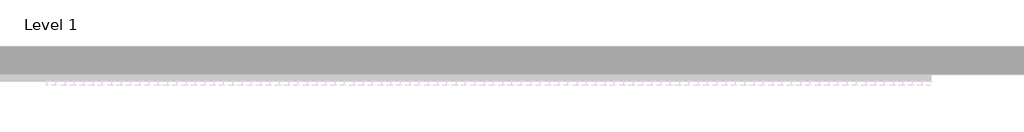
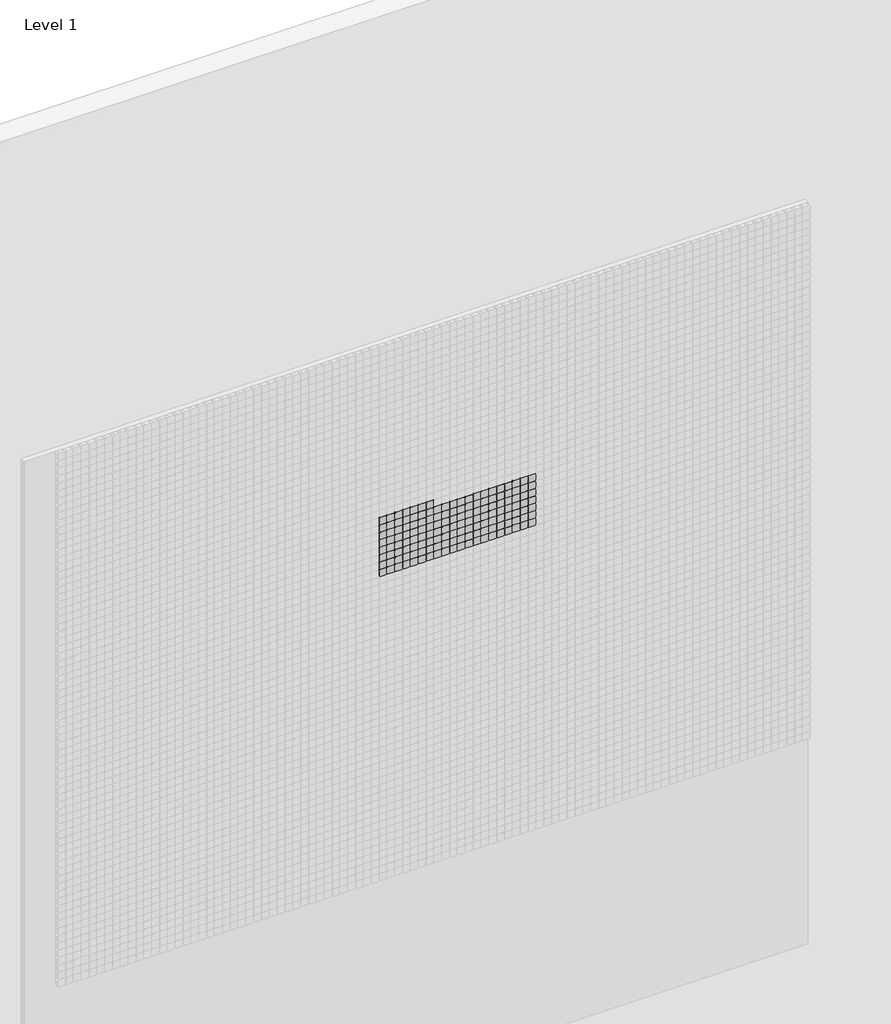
# One storey, part 38 of 71: 147 proxies.
"""IFC4 building model written with IfcOpenShell, lengths in millimetres."""

from ifc_helpers import new_model, si_unit, origin, place, context, project, spatial, transform, mapped, element, save
from components import generic_models_afde289c

model = new_model("IFC4")

# Units and contexts
model_context = context("Model", 3, world=origin())
ifc_project = project(units=[si_unit("LENGTHUNIT", "METRE", prefix="MILLI")], contexts=[model_context])

# Site, building, storey
site = spatial("IfcSite", under=ifc_project)
building = spatial("IfcBuilding", under=site)
storey = spatial("IfcBuildingStorey", under=building, Name="Level 1", Elevation=0.0)

# Proxies
placement = place(None, origin())
generic_models_shape = generic_models_afde289c(model_context)
element("IfcBuildingElementProxy", 1, Name="Pixel_M : Pixel_M", ObjectType="Pixel_M : Pixel_M", at=placement, inside=storey, context=model_context, shape_type="MappedRepresentation", body=[
    mapped(generic_models_shape, transform((7312.4280941, -75.0, 4816.3566215), x_axis=(1.0, 0.0, 0.0), y_axis=(0.0, 0.0, 1.0), z_axis=(0.0, -1.0, 0.0))),
])
element("IfcBuildingElementProxy", 2, Name="Pixel_M : Pixel_M", ObjectType="Pixel_M : Pixel_M", at=placement, inside=storey, context=model_context, shape_type="MappedRepresentation", body=[
    mapped(generic_models_shape, transform((7262.4280941, -75.0, 4816.3566215), x_axis=(1.0, 0.0, 0.0), y_axis=(0.0, 0.0, 1.0), z_axis=(0.0, -1.0, 0.0))),
])
element("IfcBuildingElementProxy", 3, Name="Pixel_M : Pixel_M", ObjectType="Pixel_M : Pixel_M", at=placement, inside=storey, context=model_context, shape_type="MappedRepresentation", body=[
    mapped(generic_models_shape, transform((7212.4280941, -75.0, 4816.3566215), x_axis=(1.0, 0.0, 0.0), y_axis=(0.0, 0.0, 1.0), z_axis=(0.0, -1.0, 0.0))),
])
element("IfcBuildingElementProxy", 4, Name="Pixel_M : Pixel_M", ObjectType="Pixel_M : Pixel_M", at=placement, inside=storey, context=model_context, shape_type="MappedRepresentation", body=[
    mapped(generic_models_shape, transform((7162.4280941, -75.0, 4816.3566215), x_axis=(1.0, 0.0, 0.0), y_axis=(0.0, 0.0, 1.0), z_axis=(0.0, -1.0, 0.0))),
])
element("IfcBuildingElementProxy", 5, Name="Pixel_M : Pixel_M", ObjectType="Pixel_M : Pixel_M", at=placement, inside=storey, context=model_context, shape_type="MappedRepresentation", body=[
    mapped(generic_models_shape, transform((7112.4280941, -75.0, 4816.3566215), x_axis=(1.0, 0.0, 0.0), y_axis=(0.0, 0.0, 1.0), z_axis=(0.0, -1.0, 0.0))),
])
element("IfcBuildingElementProxy", 6, Name="Pixel_M : Pixel_M", ObjectType="Pixel_M : Pixel_M", at=placement, inside=storey, context=model_context, shape_type="MappedRepresentation", body=[
    mapped(generic_models_shape, transform((7062.4280941, -75.0, 4816.3566215), x_axis=(1.0, 0.0, 0.0), y_axis=(0.0, 0.0, 1.0), z_axis=(0.0, -1.0, 0.0))),
])
element("IfcBuildingElementProxy", 7, Name="Pixel_M : Pixel_M", ObjectType="Pixel_M : Pixel_M", at=placement, inside=storey, context=model_context, shape_type="MappedRepresentation", body=[
    mapped(generic_models_shape, transform((7012.4280941, -75.0, 4816.3566215), x_axis=(1.0, 0.0, 0.0), y_axis=(0.0, 0.0, 1.0), z_axis=(0.0, -1.0, 0.0))),
])
element("IfcBuildingElementProxy", 8, Name="Pixel_M : Pixel_M", ObjectType="Pixel_M : Pixel_M", at=placement, inside=storey, context=model_context, shape_type="MappedRepresentation", body=[
    mapped(generic_models_shape, transform((7962.4280941, -75.0, 4766.3566215), x_axis=(1.0, 0.0, 0.0), y_axis=(0.0, 0.0, 1.0), z_axis=(0.0, -1.0, 0.0))),
])
element("IfcBuildingElementProxy", 9, Name="Pixel_M : Pixel_M", ObjectType="Pixel_M : Pixel_M", at=placement, inside=storey, context=model_context, shape_type="MappedRepresentation", body=[
    mapped(generic_models_shape, transform((7912.4280941, -75.0, 4766.3566215), x_axis=(1.0, 0.0, 0.0), y_axis=(0.0, 0.0, 1.0), z_axis=(0.0, -1.0, 0.0))),
])
element("IfcBuildingElementProxy", 10, Name="Pixel_M : Pixel_M", ObjectType="Pixel_M : Pixel_M", at=placement, inside=storey, context=model_context, shape_type="MappedRepresentation", body=[
    mapped(generic_models_shape, transform((7862.4280941, -75.0, 4766.3566215), x_axis=(1.0, 0.0, 0.0), y_axis=(0.0, 0.0, 1.0), z_axis=(0.0, -1.0, 0.0))),
])
element("IfcBuildingElementProxy", 11, Name="Pixel_M : Pixel_M", ObjectType="Pixel_M : Pixel_M", at=placement, inside=storey, context=model_context, shape_type="MappedRepresentation", body=[
    mapped(generic_models_shape, transform((7812.4280941, -75.0, 4766.3566215), x_axis=(1.0, 0.0, 0.0), y_axis=(0.0, 0.0, 1.0), z_axis=(0.0, -1.0, 0.0))),
])
element("IfcBuildingElementProxy", 12, Name="Pixel_M : Pixel_M", ObjectType="Pixel_M : Pixel_M", at=placement, inside=storey, context=model_context, shape_type="MappedRepresentation", body=[
    mapped(generic_models_shape, transform((7762.4280941, -75.0, 4766.3566215), x_axis=(1.0, 0.0, 0.0), y_axis=(0.0, 0.0, 1.0), z_axis=(0.0, -1.0, 0.0))),
])
element("IfcBuildingElementProxy", 13, Name="Pixel_M : Pixel_M", ObjectType="Pixel_M : Pixel_M", at=placement, inside=storey, context=model_context, shape_type="MappedRepresentation", body=[
    mapped(generic_models_shape, transform((7712.4280941, -75.0, 4766.3566215), x_axis=(1.0, 0.0, 0.0), y_axis=(0.0, 0.0, 1.0), z_axis=(0.0, -1.0, 0.0))),
])
element("IfcBuildingElementProxy", 14, Name="Pixel_M : Pixel_M", ObjectType="Pixel_M : Pixel_M", at=placement, inside=storey, context=model_context, shape_type="MappedRepresentation", body=[
    mapped(generic_models_shape, transform((7662.4280941, -75.0, 4766.3566215), x_axis=(1.0, 0.0, 0.0), y_axis=(0.0, 0.0, 1.0), z_axis=(0.0, -1.0, 0.0))),
])
element("IfcBuildingElementProxy", 15, Name="Pixel_M : Pixel_M", ObjectType="Pixel_M : Pixel_M", at=placement, inside=storey, context=model_context, shape_type="MappedRepresentation", body=[
    mapped(generic_models_shape, transform((7612.4280941, -75.0, 4766.3566215), x_axis=(1.0, 0.0, 0.0), y_axis=(0.0, 0.0, 1.0), z_axis=(0.0, -1.0, 0.0))),
])
element("IfcBuildingElementProxy", 16, Name="Pixel_M : Pixel_M", ObjectType="Pixel_M : Pixel_M", at=placement, inside=storey, context=model_context, shape_type="MappedRepresentation", body=[
    mapped(generic_models_shape, transform((7562.4280941, -75.0, 4766.3566215), x_axis=(1.0, 0.0, 0.0), y_axis=(0.0, 0.0, 1.0), z_axis=(0.0, -1.0, 0.0))),
])
element("IfcBuildingElementProxy", 17, Name="Pixel_M : Pixel_M", ObjectType="Pixel_M : Pixel_M", at=placement, inside=storey, context=model_context, shape_type="MappedRepresentation", body=[
    mapped(generic_models_shape, transform((7512.4280941, -75.0, 4766.3566215), x_axis=(1.0, 0.0, 0.0), y_axis=(0.0, 0.0, 1.0), z_axis=(0.0, -1.0, 0.0))),
])
element("IfcBuildingElementProxy", 18, Name="Pixel_M : Pixel_M", ObjectType="Pixel_M : Pixel_M", at=placement, inside=storey, context=model_context, shape_type="MappedRepresentation", body=[
    mapped(generic_models_shape, transform((7462.4280941, -75.0, 4766.3566215), x_axis=(1.0, 0.0, 0.0), y_axis=(0.0, 0.0, 1.0), z_axis=(0.0, -1.0, 0.0))),
])
element("IfcBuildingElementProxy", 19, Name="Pixel_M : Pixel_M", ObjectType="Pixel_M : Pixel_M", at=placement, inside=storey, context=model_context, shape_type="MappedRepresentation", body=[
    mapped(generic_models_shape, transform((7412.4280941, -75.0, 4766.3566215), x_axis=(1.0, 0.0, 0.0), y_axis=(0.0, 0.0, 1.0), z_axis=(0.0, -1.0, 0.0))),
])
element("IfcBuildingElementProxy", 20, Name="Pixel_M : Pixel_M", ObjectType="Pixel_M : Pixel_M", at=placement, inside=storey, context=model_context, shape_type="MappedRepresentation", body=[
    mapped(generic_models_shape, transform((7362.4280941, -75.0, 4766.3566215), x_axis=(1.0, 0.0, 0.0), y_axis=(0.0, 0.0, 1.0), z_axis=(0.0, -1.0, 0.0))),
])
element("IfcBuildingElementProxy", 21, Name="Pixel_M : Pixel_M", ObjectType="Pixel_M : Pixel_M", at=placement, inside=storey, context=model_context, shape_type="MappedRepresentation", body=[
    mapped(generic_models_shape, transform((7312.4280941, -75.0, 4766.3566215), x_axis=(1.0, 0.0, 0.0), y_axis=(0.0, 0.0, 1.0), z_axis=(0.0, -1.0, 0.0))),
])
element("IfcBuildingElementProxy", 22, Name="Pixel_M : Pixel_M", ObjectType="Pixel_M : Pixel_M", at=placement, inside=storey, context=model_context, shape_type="MappedRepresentation", body=[
    mapped(generic_models_shape, transform((7262.4280941, -75.0, 4766.3566215), x_axis=(1.0, 0.0, 0.0), y_axis=(0.0, 0.0, 1.0), z_axis=(0.0, -1.0, 0.0))),
])
element("IfcBuildingElementProxy", 23, Name="Pixel_M : Pixel_M", ObjectType="Pixel_M : Pixel_M", at=placement, inside=storey, context=model_context, shape_type="MappedRepresentation", body=[
    mapped(generic_models_shape, transform((7212.4280941, -75.0, 4766.3566215), x_axis=(1.0, 0.0, 0.0), y_axis=(0.0, 0.0, 1.0), z_axis=(0.0, -1.0, 0.0))),
])
element("IfcBuildingElementProxy", 24, Name="Pixel_M : Pixel_M", ObjectType="Pixel_M : Pixel_M", at=placement, inside=storey, context=model_context, shape_type="MappedRepresentation", body=[
    mapped(generic_models_shape, transform((7162.4280941, -75.0, 4766.3566215), x_axis=(1.0, 0.0, 0.0), y_axis=(0.0, 0.0, 1.0), z_axis=(0.0, -1.0, 0.0))),
])
element("IfcBuildingElementProxy", 25, Name="Pixel_M : Pixel_M", ObjectType="Pixel_M : Pixel_M", at=placement, inside=storey, context=model_context, shape_type="MappedRepresentation", body=[
    mapped(generic_models_shape, transform((7112.4280941, -75.0, 4766.3566215), x_axis=(1.0, 0.0, 0.0), y_axis=(0.0, 0.0, 1.0), z_axis=(0.0, -1.0, 0.0))),
])
element("IfcBuildingElementProxy", 26, Name="Pixel_M : Pixel_M", ObjectType="Pixel_M : Pixel_M", at=placement, inside=storey, context=model_context, shape_type="MappedRepresentation", body=[
    mapped(generic_models_shape, transform((7062.4280941, -75.0, 4766.3566215), x_axis=(1.0, 0.0, 0.0), y_axis=(0.0, 0.0, 1.0), z_axis=(0.0, -1.0, 0.0))),
])
element("IfcBuildingElementProxy", 27, Name="Pixel_M : Pixel_M", ObjectType="Pixel_M : Pixel_M", at=placement, inside=storey, context=model_context, shape_type="MappedRepresentation", body=[
    mapped(generic_models_shape, transform((7012.4280941, -75.0, 4766.3566215), x_axis=(1.0, 0.0, 0.0), y_axis=(0.0, 0.0, 1.0), z_axis=(0.0, -1.0, 0.0))),
])
element("IfcBuildingElementProxy", 28, Name="Pixel_M : Pixel_M", ObjectType="Pixel_M : Pixel_M", at=placement, inside=storey, context=model_context, shape_type="MappedRepresentation", body=[
    mapped(generic_models_shape, transform((7962.4280941, -75.0, 4716.3566215), x_axis=(1.0, 0.0, 0.0), y_axis=(0.0, 0.0, 1.0), z_axis=(0.0, -1.0, 0.0))),
])
element("IfcBuildingElementProxy", 29, Name="Pixel_M : Pixel_M", ObjectType="Pixel_M : Pixel_M", at=placement, inside=storey, context=model_context, shape_type="MappedRepresentation", body=[
    mapped(generic_models_shape, transform((7912.4280941, -75.0, 4716.3566215), x_axis=(1.0, 0.0, 0.0), y_axis=(0.0, 0.0, 1.0), z_axis=(0.0, -1.0, 0.0))),
])
element("IfcBuildingElementProxy", 30, Name="Pixel_M : Pixel_M", ObjectType="Pixel_M : Pixel_M", at=placement, inside=storey, context=model_context, shape_type="MappedRepresentation", body=[
    mapped(generic_models_shape, transform((7862.4280941, -75.0, 4716.3566215), x_axis=(1.0, 0.0, 0.0), y_axis=(0.0, 0.0, 1.0), z_axis=(0.0, -1.0, 0.0))),
])
element("IfcBuildingElementProxy", 31, Name="Pixel_M : Pixel_M", ObjectType="Pixel_M : Pixel_M", at=placement, inside=storey, context=model_context, shape_type="MappedRepresentation", body=[
    mapped(generic_models_shape, transform((7812.4280941, -75.0, 4716.3566215), x_axis=(1.0, 0.0, 0.0), y_axis=(0.0, 0.0, 1.0), z_axis=(0.0, -1.0, 0.0))),
])
element("IfcBuildingElementProxy", 32, Name="Pixel_M : Pixel_M", ObjectType="Pixel_M : Pixel_M", at=placement, inside=storey, context=model_context, shape_type="MappedRepresentation", body=[
    mapped(generic_models_shape, transform((7762.4280941, -75.0, 4716.3566215), x_axis=(1.0, 0.0, 0.0), y_axis=(0.0, 0.0, 1.0), z_axis=(0.0, -1.0, 0.0))),
])
element("IfcBuildingElementProxy", 33, Name="Pixel_M : Pixel_M", ObjectType="Pixel_M : Pixel_M", at=placement, inside=storey, context=model_context, shape_type="MappedRepresentation", body=[
    mapped(generic_models_shape, transform((7712.4280941, -75.0, 4716.3566215), x_axis=(1.0, 0.0, 0.0), y_axis=(0.0, 0.0, 1.0), z_axis=(0.0, -1.0, 0.0))),
])
element("IfcBuildingElementProxy", 34, Name="Pixel_M : Pixel_M", ObjectType="Pixel_M : Pixel_M", at=placement, inside=storey, context=model_context, shape_type="MappedRepresentation", body=[
    mapped(generic_models_shape, transform((7662.4280941, -75.0, 4716.3566215), x_axis=(1.0, 0.0, 0.0), y_axis=(0.0, 0.0, 1.0), z_axis=(0.0, -1.0, 0.0))),
])
element("IfcBuildingElementProxy", 35, Name="Pixel_M : Pixel_M", ObjectType="Pixel_M : Pixel_M", at=placement, inside=storey, context=model_context, shape_type="MappedRepresentation", body=[
    mapped(generic_models_shape, transform((7612.4280941, -75.0, 4716.3566215), x_axis=(1.0, 0.0, 0.0), y_axis=(0.0, 0.0, 1.0), z_axis=(0.0, -1.0, 0.0))),
])
element("IfcBuildingElementProxy", 36, Name="Pixel_M : Pixel_M", ObjectType="Pixel_M : Pixel_M", at=placement, inside=storey, context=model_context, shape_type="MappedRepresentation", body=[
    mapped(generic_models_shape, transform((7562.4280941, -75.0, 4716.3566215), x_axis=(1.0, 0.0, 0.0), y_axis=(0.0, 0.0, 1.0), z_axis=(0.0, -1.0, 0.0))),
])
element("IfcBuildingElementProxy", 37, Name="Pixel_M : Pixel_M", ObjectType="Pixel_M : Pixel_M", at=placement, inside=storey, context=model_context, shape_type="MappedRepresentation", body=[
    mapped(generic_models_shape, transform((7512.4280941, -75.0, 4716.3566215), x_axis=(1.0, 0.0, 0.0), y_axis=(0.0, 0.0, 1.0), z_axis=(0.0, -1.0, 0.0))),
])
element("IfcBuildingElementProxy", 38, Name="Pixel_M : Pixel_M", ObjectType="Pixel_M : Pixel_M", at=placement, inside=storey, context=model_context, shape_type="MappedRepresentation", body=[
    mapped(generic_models_shape, transform((7462.4280941, -75.0, 4716.3566215), x_axis=(1.0, 0.0, 0.0), y_axis=(0.0, 0.0, 1.0), z_axis=(0.0, -1.0, 0.0))),
])
element("IfcBuildingElementProxy", 39, Name="Pixel_M : Pixel_M", ObjectType="Pixel_M : Pixel_M", at=placement, inside=storey, context=model_context, shape_type="MappedRepresentation", body=[
    mapped(generic_models_shape, transform((7412.4280941, -75.0, 4716.3566215), x_axis=(1.0, 0.0, 0.0), y_axis=(0.0, 0.0, 1.0), z_axis=(0.0, -1.0, 0.0))),
])
element("IfcBuildingElementProxy", 40, Name="Pixel_M : Pixel_M", ObjectType="Pixel_M : Pixel_M", at=placement, inside=storey, context=model_context, shape_type="MappedRepresentation", body=[
    mapped(generic_models_shape, transform((7362.4280941, -75.0, 4716.3566215), x_axis=(1.0, 0.0, 0.0), y_axis=(0.0, 0.0, 1.0), z_axis=(0.0, -1.0, 0.0))),
])
element("IfcBuildingElementProxy", 41, Name="Pixel_M : Pixel_M", ObjectType="Pixel_M : Pixel_M", at=placement, inside=storey, context=model_context, shape_type="MappedRepresentation", body=[
    mapped(generic_models_shape, transform((7312.4280941, -75.0, 4716.3566215), x_axis=(1.0, 0.0, 0.0), y_axis=(0.0, 0.0, 1.0), z_axis=(0.0, -1.0, 0.0))),
])
element("IfcBuildingElementProxy", 42, Name="Pixel_M : Pixel_M", ObjectType="Pixel_M : Pixel_M", at=placement, inside=storey, context=model_context, shape_type="MappedRepresentation", body=[
    mapped(generic_models_shape, transform((7262.4280941, -75.0, 4716.3566215), x_axis=(1.0, 0.0, 0.0), y_axis=(0.0, 0.0, 1.0), z_axis=(0.0, -1.0, 0.0))),
])
element("IfcBuildingElementProxy", 43, Name="Pixel_M : Pixel_M", ObjectType="Pixel_M : Pixel_M", at=placement, inside=storey, context=model_context, shape_type="MappedRepresentation", body=[
    mapped(generic_models_shape, transform((7212.4280941, -75.0, 4716.3566215), x_axis=(1.0, 0.0, 0.0), y_axis=(0.0, 0.0, 1.0), z_axis=(0.0, -1.0, 0.0))),
])
element("IfcBuildingElementProxy", 44, Name="Pixel_M : Pixel_M", ObjectType="Pixel_M : Pixel_M", at=placement, inside=storey, context=model_context, shape_type="MappedRepresentation", body=[
    mapped(generic_models_shape, transform((7162.4280941, -75.0, 4716.3566215), x_axis=(1.0, 0.0, 0.0), y_axis=(0.0, 0.0, 1.0), z_axis=(0.0, -1.0, 0.0))),
])
element("IfcBuildingElementProxy", 45, Name="Pixel_M : Pixel_M", ObjectType="Pixel_M : Pixel_M", at=placement, inside=storey, context=model_context, shape_type="MappedRepresentation", body=[
    mapped(generic_models_shape, transform((7112.4280941, -75.0, 4716.3566215), x_axis=(1.0, 0.0, 0.0), y_axis=(0.0, 0.0, 1.0), z_axis=(0.0, -1.0, 0.0))),
])
element("IfcBuildingElementProxy", 46, Name="Pixel_M : Pixel_M", ObjectType="Pixel_M : Pixel_M", at=placement, inside=storey, context=model_context, shape_type="MappedRepresentation", body=[
    mapped(generic_models_shape, transform((7062.4280941, -75.0, 4716.3566215), x_axis=(1.0, 0.0, 0.0), y_axis=(0.0, 0.0, 1.0), z_axis=(0.0, -1.0, 0.0))),
])
element("IfcBuildingElementProxy", 47, Name="Pixel_M : Pixel_M", ObjectType="Pixel_M : Pixel_M", at=placement, inside=storey, context=model_context, shape_type="MappedRepresentation", body=[
    mapped(generic_models_shape, transform((7012.4280941, -75.0, 4716.3566215), x_axis=(1.0, 0.0, 0.0), y_axis=(0.0, 0.0, 1.0), z_axis=(0.0, -1.0, 0.0))),
])
element("IfcBuildingElementProxy", 48, Name="Pixel_M : Pixel_M", ObjectType="Pixel_M : Pixel_M", at=placement, inside=storey, context=model_context, shape_type="MappedRepresentation", body=[
    mapped(generic_models_shape, transform((7962.4280941, -75.0, 4666.3566215), x_axis=(1.0, 0.0, 0.0), y_axis=(0.0, 0.0, 1.0), z_axis=(0.0, -1.0, 0.0))),
])
element("IfcBuildingElementProxy", 49, Name="Pixel_M : Pixel_M", ObjectType="Pixel_M : Pixel_M", at=placement, inside=storey, context=model_context, shape_type="MappedRepresentation", body=[
    mapped(generic_models_shape, transform((7912.4280941, -75.0, 4666.3566215), x_axis=(1.0, 0.0, 0.0), y_axis=(0.0, 0.0, 1.0), z_axis=(0.0, -1.0, 0.0))),
])
element("IfcBuildingElementProxy", 50, Name="Pixel_M : Pixel_M", ObjectType="Pixel_M : Pixel_M", at=placement, inside=storey, context=model_context, shape_type="MappedRepresentation", body=[
    mapped(generic_models_shape, transform((7862.4280941, -75.0, 4666.3566215), x_axis=(1.0, 0.0, 0.0), y_axis=(0.0, 0.0, 1.0), z_axis=(0.0, -1.0, 0.0))),
])
element("IfcBuildingElementProxy", 51, Name="Pixel_M : Pixel_M", ObjectType="Pixel_M : Pixel_M", at=placement, inside=storey, context=model_context, shape_type="MappedRepresentation", body=[
    mapped(generic_models_shape, transform((7812.4280941, -75.0, 4666.3566215), x_axis=(1.0, 0.0, 0.0), y_axis=(0.0, 0.0, 1.0), z_axis=(0.0, -1.0, 0.0))),
])
element("IfcBuildingElementProxy", 52, Name="Pixel_M : Pixel_M", ObjectType="Pixel_M : Pixel_M", at=placement, inside=storey, context=model_context, shape_type="MappedRepresentation", body=[
    mapped(generic_models_shape, transform((7762.4280941, -75.0, 4666.3566215), x_axis=(1.0, 0.0, 0.0), y_axis=(0.0, 0.0, 1.0), z_axis=(0.0, -1.0, 0.0))),
])
element("IfcBuildingElementProxy", 53, Name="Pixel_M : Pixel_M", ObjectType="Pixel_M : Pixel_M", at=placement, inside=storey, context=model_context, shape_type="MappedRepresentation", body=[
    mapped(generic_models_shape, transform((7712.4280941, -75.0, 4666.3566215), x_axis=(1.0, 0.0, 0.0), y_axis=(0.0, 0.0, 1.0), z_axis=(0.0, -1.0, 0.0))),
])
element("IfcBuildingElementProxy", 54, Name="Pixel_M : Pixel_M", ObjectType="Pixel_M : Pixel_M", at=placement, inside=storey, context=model_context, shape_type="MappedRepresentation", body=[
    mapped(generic_models_shape, transform((7662.4280941, -75.0, 4666.3566215), x_axis=(1.0, 0.0, 0.0), y_axis=(0.0, 0.0, 1.0), z_axis=(0.0, -1.0, 0.0))),
])
element("IfcBuildingElementProxy", 55, Name="Pixel_M : Pixel_M", ObjectType="Pixel_M : Pixel_M", at=placement, inside=storey, context=model_context, shape_type="MappedRepresentation", body=[
    mapped(generic_models_shape, transform((7612.4280941, -75.0, 4666.3566215), x_axis=(1.0, 0.0, 0.0), y_axis=(0.0, 0.0, 1.0), z_axis=(0.0, -1.0, 0.0))),
])
element("IfcBuildingElementProxy", 56, Name="Pixel_M : Pixel_M", ObjectType="Pixel_M : Pixel_M", at=placement, inside=storey, context=model_context, shape_type="MappedRepresentation", body=[
    mapped(generic_models_shape, transform((7562.4280941, -75.0, 4666.3566215), x_axis=(1.0, 0.0, 0.0), y_axis=(0.0, 0.0, 1.0), z_axis=(0.0, -1.0, 0.0))),
])
element("IfcBuildingElementProxy", 57, Name="Pixel_M : Pixel_M", ObjectType="Pixel_M : Pixel_M", at=placement, inside=storey, context=model_context, shape_type="MappedRepresentation", body=[
    mapped(generic_models_shape, transform((7512.4280941, -75.0, 4666.3566215), x_axis=(1.0, 0.0, 0.0), y_axis=(0.0, 0.0, 1.0), z_axis=(0.0, -1.0, 0.0))),
])
element("IfcBuildingElementProxy", 58, Name="Pixel_M : Pixel_M", ObjectType="Pixel_M : Pixel_M", at=placement, inside=storey, context=model_context, shape_type="MappedRepresentation", body=[
    mapped(generic_models_shape, transform((7462.4280941, -75.0, 4666.3566215), x_axis=(1.0, 0.0, 0.0), y_axis=(0.0, 0.0, 1.0), z_axis=(0.0, -1.0, 0.0))),
])
element("IfcBuildingElementProxy", 59, Name="Pixel_M : Pixel_M", ObjectType="Pixel_M : Pixel_M", at=placement, inside=storey, context=model_context, shape_type="MappedRepresentation", body=[
    mapped(generic_models_shape, transform((7412.4280941, -75.0, 4666.3566215), x_axis=(1.0, 0.0, 0.0), y_axis=(0.0, 0.0, 1.0), z_axis=(0.0, -1.0, 0.0))),
])
element("IfcBuildingElementProxy", 60, Name="Pixel_M : Pixel_M", ObjectType="Pixel_M : Pixel_M", at=placement, inside=storey, context=model_context, shape_type="MappedRepresentation", body=[
    mapped(generic_models_shape, transform((7362.4280941, -75.0, 4666.3566215), x_axis=(1.0, 0.0, 0.0), y_axis=(0.0, 0.0, 1.0), z_axis=(0.0, -1.0, 0.0))),
])
element("IfcBuildingElementProxy", 61, Name="Pixel_M : Pixel_M", ObjectType="Pixel_M : Pixel_M", at=placement, inside=storey, context=model_context, shape_type="MappedRepresentation", body=[
    mapped(generic_models_shape, transform((7312.4280941, -75.0, 4666.3566215), x_axis=(1.0, 0.0, 0.0), y_axis=(0.0, 0.0, 1.0), z_axis=(0.0, -1.0, 0.0))),
])
element("IfcBuildingElementProxy", 62, Name="Pixel_M : Pixel_M", ObjectType="Pixel_M : Pixel_M", at=placement, inside=storey, context=model_context, shape_type="MappedRepresentation", body=[
    mapped(generic_models_shape, transform((7262.4280941, -75.0, 4666.3566215), x_axis=(1.0, 0.0, 0.0), y_axis=(0.0, 0.0, 1.0), z_axis=(0.0, -1.0, 0.0))),
])
element("IfcBuildingElementProxy", 63, Name="Pixel_M : Pixel_M", ObjectType="Pixel_M : Pixel_M", at=placement, inside=storey, context=model_context, shape_type="MappedRepresentation", body=[
    mapped(generic_models_shape, transform((7212.4280941, -75.0, 4666.3566215), x_axis=(1.0, 0.0, 0.0), y_axis=(0.0, 0.0, 1.0), z_axis=(0.0, -1.0, 0.0))),
])
element("IfcBuildingElementProxy", 64, Name="Pixel_M : Pixel_M", ObjectType="Pixel_M : Pixel_M", at=placement, inside=storey, context=model_context, shape_type="MappedRepresentation", body=[
    mapped(generic_models_shape, transform((7162.4280941, -75.0, 4666.3566215), x_axis=(1.0, 0.0, 0.0), y_axis=(0.0, 0.0, 1.0), z_axis=(0.0, -1.0, 0.0))),
])
element("IfcBuildingElementProxy", 65, Name="Pixel_M : Pixel_M", ObjectType="Pixel_M : Pixel_M", at=placement, inside=storey, context=model_context, shape_type="MappedRepresentation", body=[
    mapped(generic_models_shape, transform((7112.4280941, -75.0, 4666.3566215), x_axis=(1.0, 0.0, 0.0), y_axis=(0.0, 0.0, 1.0), z_axis=(0.0, -1.0, 0.0))),
])
element("IfcBuildingElementProxy", 66, Name="Pixel_M : Pixel_M", ObjectType="Pixel_M : Pixel_M", at=placement, inside=storey, context=model_context, shape_type="MappedRepresentation", body=[
    mapped(generic_models_shape, transform((7062.4280941, -75.0, 4666.3566215), x_axis=(1.0, 0.0, 0.0), y_axis=(0.0, 0.0, 1.0), z_axis=(0.0, -1.0, 0.0))),
])
element("IfcBuildingElementProxy", 67, Name="Pixel_M : Pixel_M", ObjectType="Pixel_M : Pixel_M", at=placement, inside=storey, context=model_context, shape_type="MappedRepresentation", body=[
    mapped(generic_models_shape, transform((7012.4280941, -75.0, 4666.3566215), x_axis=(1.0, 0.0, 0.0), y_axis=(0.0, 0.0, 1.0), z_axis=(0.0, -1.0, 0.0))),
])
element("IfcBuildingElementProxy", 68, Name="Pixel_M : Pixel_M", ObjectType="Pixel_M : Pixel_M", at=placement, inside=storey, context=model_context, shape_type="MappedRepresentation", body=[
    mapped(generic_models_shape, transform((7962.4280941, -75.0, 4616.3566215), x_axis=(1.0, 0.0, 0.0), y_axis=(0.0, 0.0, 1.0), z_axis=(0.0, -1.0, 0.0))),
])
element("IfcBuildingElementProxy", 69, Name="Pixel_M : Pixel_M", ObjectType="Pixel_M : Pixel_M", at=placement, inside=storey, context=model_context, shape_type="MappedRepresentation", body=[
    mapped(generic_models_shape, transform((7912.4280941, -75.0, 4616.3566215), x_axis=(1.0, 0.0, 0.0), y_axis=(0.0, 0.0, 1.0), z_axis=(0.0, -1.0, 0.0))),
])
element("IfcBuildingElementProxy", 70, Name="Pixel_M : Pixel_M", ObjectType="Pixel_M : Pixel_M", at=placement, inside=storey, context=model_context, shape_type="MappedRepresentation", body=[
    mapped(generic_models_shape, transform((7862.4280941, -75.0, 4616.3566215), x_axis=(1.0, 0.0, 0.0), y_axis=(0.0, 0.0, 1.0), z_axis=(0.0, -1.0, 0.0))),
])
element("IfcBuildingElementProxy", 71, Name="Pixel_M : Pixel_M", ObjectType="Pixel_M : Pixel_M", at=placement, inside=storey, context=model_context, shape_type="MappedRepresentation", body=[
    mapped(generic_models_shape, transform((7812.4280941, -75.0, 4616.3566215), x_axis=(1.0, 0.0, 0.0), y_axis=(0.0, 0.0, 1.0), z_axis=(0.0, -1.0, 0.0))),
])
element("IfcBuildingElementProxy", 72, Name="Pixel_M : Pixel_M", ObjectType="Pixel_M : Pixel_M", at=placement, inside=storey, context=model_context, shape_type="MappedRepresentation", body=[
    mapped(generic_models_shape, transform((7762.4280941, -75.0, 4616.3566215), x_axis=(1.0, 0.0, 0.0), y_axis=(0.0, 0.0, 1.0), z_axis=(0.0, -1.0, 0.0))),
])
element("IfcBuildingElementProxy", 73, Name="Pixel_M : Pixel_M", ObjectType="Pixel_M : Pixel_M", at=placement, inside=storey, context=model_context, shape_type="MappedRepresentation", body=[
    mapped(generic_models_shape, transform((7712.4280941, -75.0, 4616.3566215), x_axis=(1.0, 0.0, 0.0), y_axis=(0.0, 0.0, 1.0), z_axis=(0.0, -1.0, 0.0))),
])
element("IfcBuildingElementProxy", 74, Name="Pixel_M : Pixel_M", ObjectType="Pixel_M : Pixel_M", at=placement, inside=storey, context=model_context, shape_type="MappedRepresentation", body=[
    mapped(generic_models_shape, transform((7662.4280941, -75.0, 4616.3566215), x_axis=(1.0, 0.0, 0.0), y_axis=(0.0, 0.0, 1.0), z_axis=(0.0, -1.0, 0.0))),
])
element("IfcBuildingElementProxy", 75, Name="Pixel_M : Pixel_M", ObjectType="Pixel_M : Pixel_M", at=placement, inside=storey, context=model_context, shape_type="MappedRepresentation", body=[
    mapped(generic_models_shape, transform((7612.4280941, -75.0, 4616.3566215), x_axis=(1.0, 0.0, 0.0), y_axis=(0.0, 0.0, 1.0), z_axis=(0.0, -1.0, 0.0))),
])
element("IfcBuildingElementProxy", 76, Name="Pixel_M : Pixel_M", ObjectType="Pixel_M : Pixel_M", at=placement, inside=storey, context=model_context, shape_type="MappedRepresentation", body=[
    mapped(generic_models_shape, transform((7562.4280941, -75.0, 4616.3566215), x_axis=(1.0, 0.0, 0.0), y_axis=(0.0, 0.0, 1.0), z_axis=(0.0, -1.0, 0.0))),
])
element("IfcBuildingElementProxy", 77, Name="Pixel_M : Pixel_M", ObjectType="Pixel_M : Pixel_M", at=placement, inside=storey, context=model_context, shape_type="MappedRepresentation", body=[
    mapped(generic_models_shape, transform((7512.4280941, -75.0, 4616.3566215), x_axis=(1.0, 0.0, 0.0), y_axis=(0.0, 0.0, 1.0), z_axis=(0.0, -1.0, 0.0))),
])
element("IfcBuildingElementProxy", 78, Name="Pixel_M : Pixel_M", ObjectType="Pixel_M : Pixel_M", at=placement, inside=storey, context=model_context, shape_type="MappedRepresentation", body=[
    mapped(generic_models_shape, transform((7462.4280941, -75.0, 4616.3566215), x_axis=(1.0, 0.0, 0.0), y_axis=(0.0, 0.0, 1.0), z_axis=(0.0, -1.0, 0.0))),
])
element("IfcBuildingElementProxy", 79, Name="Pixel_M : Pixel_M", ObjectType="Pixel_M : Pixel_M", at=placement, inside=storey, context=model_context, shape_type="MappedRepresentation", body=[
    mapped(generic_models_shape, transform((7412.4280941, -75.0, 4616.3566215), x_axis=(1.0, 0.0, 0.0), y_axis=(0.0, 0.0, 1.0), z_axis=(0.0, -1.0, 0.0))),
])
element("IfcBuildingElementProxy", 80, Name="Pixel_M : Pixel_M", ObjectType="Pixel_M : Pixel_M", at=placement, inside=storey, context=model_context, shape_type="MappedRepresentation", body=[
    mapped(generic_models_shape, transform((7362.4280941, -75.0, 4616.3566215), x_axis=(1.0, 0.0, 0.0), y_axis=(0.0, 0.0, 1.0), z_axis=(0.0, -1.0, 0.0))),
])
element("IfcBuildingElementProxy", 81, Name="Pixel_M : Pixel_M", ObjectType="Pixel_M : Pixel_M", at=placement, inside=storey, context=model_context, shape_type="MappedRepresentation", body=[
    mapped(generic_models_shape, transform((7312.4280941, -75.0, 4616.3566215), x_axis=(1.0, 0.0, 0.0), y_axis=(0.0, 0.0, 1.0), z_axis=(0.0, -1.0, 0.0))),
])
element("IfcBuildingElementProxy", 82, Name="Pixel_M : Pixel_M", ObjectType="Pixel_M : Pixel_M", at=placement, inside=storey, context=model_context, shape_type="MappedRepresentation", body=[
    mapped(generic_models_shape, transform((7262.4280941, -75.0, 4616.3566215), x_axis=(1.0, 0.0, 0.0), y_axis=(0.0, 0.0, 1.0), z_axis=(0.0, -1.0, 0.0))),
])
element("IfcBuildingElementProxy", 83, Name="Pixel_M : Pixel_M", ObjectType="Pixel_M : Pixel_M", at=placement, inside=storey, context=model_context, shape_type="MappedRepresentation", body=[
    mapped(generic_models_shape, transform((7212.4280941, -75.0, 4616.3566215), x_axis=(1.0, 0.0, 0.0), y_axis=(0.0, 0.0, 1.0), z_axis=(0.0, -1.0, 0.0))),
])
element("IfcBuildingElementProxy", 84, Name="Pixel_M : Pixel_M", ObjectType="Pixel_M : Pixel_M", at=placement, inside=storey, context=model_context, shape_type="MappedRepresentation", body=[
    mapped(generic_models_shape, transform((7162.4280941, -75.0, 4616.3566215), x_axis=(1.0, 0.0, 0.0), y_axis=(0.0, 0.0, 1.0), z_axis=(0.0, -1.0, 0.0))),
])
element("IfcBuildingElementProxy", 85, Name="Pixel_M : Pixel_M", ObjectType="Pixel_M : Pixel_M", at=placement, inside=storey, context=model_context, shape_type="MappedRepresentation", body=[
    mapped(generic_models_shape, transform((7112.4280941, -75.0, 4616.3566215), x_axis=(1.0, 0.0, 0.0), y_axis=(0.0, 0.0, 1.0), z_axis=(0.0, -1.0, 0.0))),
])
element("IfcBuildingElementProxy", 86, Name="Pixel_M : Pixel_M", ObjectType="Pixel_M : Pixel_M", at=placement, inside=storey, context=model_context, shape_type="MappedRepresentation", body=[
    mapped(generic_models_shape, transform((7062.4280941, -75.0, 4616.3566215), x_axis=(1.0, 0.0, 0.0), y_axis=(0.0, 0.0, 1.0), z_axis=(0.0, -1.0, 0.0))),
])
element("IfcBuildingElementProxy", 87, Name="Pixel_M : Pixel_M", ObjectType="Pixel_M : Pixel_M", at=placement, inside=storey, context=model_context, shape_type="MappedRepresentation", body=[
    mapped(generic_models_shape, transform((7012.4280941, -75.0, 4616.3566215), x_axis=(1.0, 0.0, 0.0), y_axis=(0.0, 0.0, 1.0), z_axis=(0.0, -1.0, 0.0))),
])
element("IfcBuildingElementProxy", 88, Name="Pixel_M : Pixel_M", ObjectType="Pixel_M : Pixel_M", at=placement, inside=storey, context=model_context, shape_type="MappedRepresentation", body=[
    mapped(generic_models_shape, transform((7962.4280941, -75.0, 4566.3566215), x_axis=(1.0, 0.0, 0.0), y_axis=(0.0, 0.0, 1.0), z_axis=(0.0, -1.0, 0.0))),
])
element("IfcBuildingElementProxy", 89, Name="Pixel_M : Pixel_M", ObjectType="Pixel_M : Pixel_M", at=placement, inside=storey, context=model_context, shape_type="MappedRepresentation", body=[
    mapped(generic_models_shape, transform((7912.4280941, -75.0, 4566.3566215), x_axis=(1.0, 0.0, 0.0), y_axis=(0.0, 0.0, 1.0), z_axis=(0.0, -1.0, 0.0))),
])
element("IfcBuildingElementProxy", 90, Name="Pixel_M : Pixel_M", ObjectType="Pixel_M : Pixel_M", at=placement, inside=storey, context=model_context, shape_type="MappedRepresentation", body=[
    mapped(generic_models_shape, transform((7862.4280941, -75.0, 4566.3566215), x_axis=(1.0, 0.0, 0.0), y_axis=(0.0, 0.0, 1.0), z_axis=(0.0, -1.0, 0.0))),
])
element("IfcBuildingElementProxy", 91, Name="Pixel_M : Pixel_M", ObjectType="Pixel_M : Pixel_M", at=placement, inside=storey, context=model_context, shape_type="MappedRepresentation", body=[
    mapped(generic_models_shape, transform((7812.4280941, -75.0, 4566.3566215), x_axis=(1.0, 0.0, 0.0), y_axis=(0.0, 0.0, 1.0), z_axis=(0.0, -1.0, 0.0))),
])
element("IfcBuildingElementProxy", 92, Name="Pixel_M : Pixel_M", ObjectType="Pixel_M : Pixel_M", at=placement, inside=storey, context=model_context, shape_type="MappedRepresentation", body=[
    mapped(generic_models_shape, transform((7762.4280941, -75.0, 4566.3566215), x_axis=(1.0, 0.0, 0.0), y_axis=(0.0, 0.0, 1.0), z_axis=(0.0, -1.0, 0.0))),
])
element("IfcBuildingElementProxy", 93, Name="Pixel_M : Pixel_M", ObjectType="Pixel_M : Pixel_M", at=placement, inside=storey, context=model_context, shape_type="MappedRepresentation", body=[
    mapped(generic_models_shape, transform((7712.4280941, -75.0, 4566.3566215), x_axis=(1.0, 0.0, 0.0), y_axis=(0.0, 0.0, 1.0), z_axis=(0.0, -1.0, 0.0))),
])
element("IfcBuildingElementProxy", 94, Name="Pixel_M : Pixel_M", ObjectType="Pixel_M : Pixel_M", at=placement, inside=storey, context=model_context, shape_type="MappedRepresentation", body=[
    mapped(generic_models_shape, transform((7662.4280941, -75.0, 4566.3566215), x_axis=(1.0, 0.0, 0.0), y_axis=(0.0, 0.0, 1.0), z_axis=(0.0, -1.0, 0.0))),
])
element("IfcBuildingElementProxy", 95, Name="Pixel_M : Pixel_M", ObjectType="Pixel_M : Pixel_M", at=placement, inside=storey, context=model_context, shape_type="MappedRepresentation", body=[
    mapped(generic_models_shape, transform((7612.4280941, -75.0, 4566.3566215), x_axis=(1.0, 0.0, 0.0), y_axis=(0.0, 0.0, 1.0), z_axis=(0.0, -1.0, 0.0))),
])
element("IfcBuildingElementProxy", 96, Name="Pixel_M : Pixel_M", ObjectType="Pixel_M : Pixel_M", at=placement, inside=storey, context=model_context, shape_type="MappedRepresentation", body=[
    mapped(generic_models_shape, transform((7562.4280941, -75.0, 4566.3566215), x_axis=(1.0, 0.0, 0.0), y_axis=(0.0, 0.0, 1.0), z_axis=(0.0, -1.0, 0.0))),
])
element("IfcBuildingElementProxy", 97, Name="Pixel_M : Pixel_M", ObjectType="Pixel_M : Pixel_M", at=placement, inside=storey, context=model_context, shape_type="MappedRepresentation", body=[
    mapped(generic_models_shape, transform((7512.4280941, -75.0, 4566.3566215), x_axis=(1.0, 0.0, 0.0), y_axis=(0.0, 0.0, 1.0), z_axis=(0.0, -1.0, 0.0))),
])
element("IfcBuildingElementProxy", 98, Name="Pixel_M : Pixel_M", ObjectType="Pixel_M : Pixel_M", at=placement, inside=storey, context=model_context, shape_type="MappedRepresentation", body=[
    mapped(generic_models_shape, transform((7462.4280941, -75.0, 4566.3566215), x_axis=(1.0, 0.0, 0.0), y_axis=(0.0, 0.0, 1.0), z_axis=(0.0, -1.0, 0.0))),
])
element("IfcBuildingElementProxy", 99, Name="Pixel_M : Pixel_M", ObjectType="Pixel_M : Pixel_M", at=placement, inside=storey, context=model_context, shape_type="MappedRepresentation", body=[
    mapped(generic_models_shape, transform((7412.4280941, -75.0, 4566.3566215), x_axis=(1.0, 0.0, 0.0), y_axis=(0.0, 0.0, 1.0), z_axis=(0.0, -1.0, 0.0))),
])
element("IfcBuildingElementProxy", 100, Name="Pixel_M : Pixel_M", ObjectType="Pixel_M : Pixel_M", at=placement, inside=storey, context=model_context, shape_type="MappedRepresentation", body=[
    mapped(generic_models_shape, transform((7362.4280941, -75.0, 4566.3566215), x_axis=(1.0, 0.0, 0.0), y_axis=(0.0, 0.0, 1.0), z_axis=(0.0, -1.0, 0.0))),
])
element("IfcBuildingElementProxy", 101, Name="Pixel_M : Pixel_M", ObjectType="Pixel_M : Pixel_M", at=placement, inside=storey, context=model_context, shape_type="MappedRepresentation", body=[
    mapped(generic_models_shape, transform((7312.4280941, -75.0, 4566.3566215), x_axis=(1.0, 0.0, 0.0), y_axis=(0.0, 0.0, 1.0), z_axis=(0.0, -1.0, 0.0))),
])
element("IfcBuildingElementProxy", 102, Name="Pixel_M : Pixel_M", ObjectType="Pixel_M : Pixel_M", at=placement, inside=storey, context=model_context, shape_type="MappedRepresentation", body=[
    mapped(generic_models_shape, transform((7262.4280941, -75.0, 4566.3566215), x_axis=(1.0, 0.0, 0.0), y_axis=(0.0, 0.0, 1.0), z_axis=(0.0, -1.0, 0.0))),
])
element("IfcBuildingElementProxy", 103, Name="Pixel_M : Pixel_M", ObjectType="Pixel_M : Pixel_M", at=placement, inside=storey, context=model_context, shape_type="MappedRepresentation", body=[
    mapped(generic_models_shape, transform((7212.4280941, -75.0, 4566.3566215), x_axis=(1.0, 0.0, 0.0), y_axis=(0.0, 0.0, 1.0), z_axis=(0.0, -1.0, 0.0))),
])
element("IfcBuildingElementProxy", 104, Name="Pixel_M : Pixel_M", ObjectType="Pixel_M : Pixel_M", at=placement, inside=storey, context=model_context, shape_type="MappedRepresentation", body=[
    mapped(generic_models_shape, transform((7162.4280941, -75.0, 4566.3566215), x_axis=(1.0, 0.0, 0.0), y_axis=(0.0, 0.0, 1.0), z_axis=(0.0, -1.0, 0.0))),
])
element("IfcBuildingElementProxy", 105, Name="Pixel_M : Pixel_M", ObjectType="Pixel_M : Pixel_M", at=placement, inside=storey, context=model_context, shape_type="MappedRepresentation", body=[
    mapped(generic_models_shape, transform((7112.4280941, -75.0, 4566.3566215), x_axis=(1.0, 0.0, 0.0), y_axis=(0.0, 0.0, 1.0), z_axis=(0.0, -1.0, 0.0))),
])
element("IfcBuildingElementProxy", 106, Name="Pixel_M : Pixel_M", ObjectType="Pixel_M : Pixel_M", at=placement, inside=storey, context=model_context, shape_type="MappedRepresentation", body=[
    mapped(generic_models_shape, transform((7062.4280941, -75.0, 4566.3566215), x_axis=(1.0, 0.0, 0.0), y_axis=(0.0, 0.0, 1.0), z_axis=(0.0, -1.0, 0.0))),
])
element("IfcBuildingElementProxy", 107, Name="Pixel_M : Pixel_M", ObjectType="Pixel_M : Pixel_M", at=placement, inside=storey, context=model_context, shape_type="MappedRepresentation", body=[
    mapped(generic_models_shape, transform((7012.4280941, -75.0, 4566.3566215), x_axis=(1.0, 0.0, 0.0), y_axis=(0.0, 0.0, 1.0), z_axis=(0.0, -1.0, 0.0))),
])
element("IfcBuildingElementProxy", 108, Name="Pixel_M : Pixel_M", ObjectType="Pixel_M : Pixel_M", at=placement, inside=storey, context=model_context, shape_type="MappedRepresentation", body=[
    mapped(generic_models_shape, transform((7962.4280941, -75.0, 4516.3566215), x_axis=(1.0, 0.0, 0.0), y_axis=(0.0, 0.0, 1.0), z_axis=(0.0, -1.0, 0.0))),
])
element("IfcBuildingElementProxy", 109, Name="Pixel_M : Pixel_M", ObjectType="Pixel_M : Pixel_M", at=placement, inside=storey, context=model_context, shape_type="MappedRepresentation", body=[
    mapped(generic_models_shape, transform((7912.4280941, -75.0, 4516.3566215), x_axis=(1.0, 0.0, 0.0), y_axis=(0.0, 0.0, 1.0), z_axis=(0.0, -1.0, 0.0))),
])
element("IfcBuildingElementProxy", 110, Name="Pixel_M : Pixel_M", ObjectType="Pixel_M : Pixel_M", at=placement, inside=storey, context=model_context, shape_type="MappedRepresentation", body=[
    mapped(generic_models_shape, transform((7862.4280941, -75.0, 4516.3566215), x_axis=(1.0, 0.0, 0.0), y_axis=(0.0, 0.0, 1.0), z_axis=(0.0, -1.0, 0.0))),
])
element("IfcBuildingElementProxy", 111, Name="Pixel_M : Pixel_M", ObjectType="Pixel_M : Pixel_M", at=placement, inside=storey, context=model_context, shape_type="MappedRepresentation", body=[
    mapped(generic_models_shape, transform((7812.4280941, -75.0, 4516.3566215), x_axis=(1.0, 0.0, 0.0), y_axis=(0.0, 0.0, 1.0), z_axis=(0.0, -1.0, 0.0))),
])
element("IfcBuildingElementProxy", 112, Name="Pixel_M : Pixel_M", ObjectType="Pixel_M : Pixel_M", at=placement, inside=storey, context=model_context, shape_type="MappedRepresentation", body=[
    mapped(generic_models_shape, transform((7762.4280941, -75.0, 4516.3566215), x_axis=(1.0, 0.0, 0.0), y_axis=(0.0, 0.0, 1.0), z_axis=(0.0, -1.0, 0.0))),
])
element("IfcBuildingElementProxy", 113, Name="Pixel_M : Pixel_M", ObjectType="Pixel_M : Pixel_M", at=placement, inside=storey, context=model_context, shape_type="MappedRepresentation", body=[
    mapped(generic_models_shape, transform((7712.4280941, -75.0, 4516.3566215), x_axis=(1.0, 0.0, 0.0), y_axis=(0.0, 0.0, 1.0), z_axis=(0.0, -1.0, 0.0))),
])
element("IfcBuildingElementProxy", 114, Name="Pixel_M : Pixel_M", ObjectType="Pixel_M : Pixel_M", at=placement, inside=storey, context=model_context, shape_type="MappedRepresentation", body=[
    mapped(generic_models_shape, transform((7662.4280941, -75.0, 4516.3566215), x_axis=(1.0, 0.0, 0.0), y_axis=(0.0, 0.0, 1.0), z_axis=(0.0, -1.0, 0.0))),
])
element("IfcBuildingElementProxy", 115, Name="Pixel_M : Pixel_M", ObjectType="Pixel_M : Pixel_M", at=placement, inside=storey, context=model_context, shape_type="MappedRepresentation", body=[
    mapped(generic_models_shape, transform((7612.4280941, -75.0, 4516.3566215), x_axis=(1.0, 0.0, 0.0), y_axis=(0.0, 0.0, 1.0), z_axis=(0.0, -1.0, 0.0))),
])
element("IfcBuildingElementProxy", 116, Name="Pixel_M : Pixel_M", ObjectType="Pixel_M : Pixel_M", at=placement, inside=storey, context=model_context, shape_type="MappedRepresentation", body=[
    mapped(generic_models_shape, transform((7562.4280941, -75.0, 4516.3566215), x_axis=(1.0, 0.0, 0.0), y_axis=(0.0, 0.0, 1.0), z_axis=(0.0, -1.0, 0.0))),
])
element("IfcBuildingElementProxy", 117, Name="Pixel_M : Pixel_M", ObjectType="Pixel_M : Pixel_M", at=placement, inside=storey, context=model_context, shape_type="MappedRepresentation", body=[
    mapped(generic_models_shape, transform((7512.4280941, -75.0, 4516.3566215), x_axis=(1.0, 0.0, 0.0), y_axis=(0.0, 0.0, 1.0), z_axis=(0.0, -1.0, 0.0))),
])
element("IfcBuildingElementProxy", 118, Name="Pixel_M : Pixel_M", ObjectType="Pixel_M : Pixel_M", at=placement, inside=storey, context=model_context, shape_type="MappedRepresentation", body=[
    mapped(generic_models_shape, transform((7462.4280941, -75.0, 4516.3566215), x_axis=(1.0, 0.0, 0.0), y_axis=(0.0, 0.0, 1.0), z_axis=(0.0, -1.0, 0.0))),
])
element("IfcBuildingElementProxy", 119, Name="Pixel_M : Pixel_M", ObjectType="Pixel_M : Pixel_M", at=placement, inside=storey, context=model_context, shape_type="MappedRepresentation", body=[
    mapped(generic_models_shape, transform((7412.4280941, -75.0, 4516.3566215), x_axis=(1.0, 0.0, 0.0), y_axis=(0.0, 0.0, 1.0), z_axis=(0.0, -1.0, 0.0))),
])
element("IfcBuildingElementProxy", 120, Name="Pixel_M : Pixel_M", ObjectType="Pixel_M : Pixel_M", at=placement, inside=storey, context=model_context, shape_type="MappedRepresentation", body=[
    mapped(generic_models_shape, transform((7362.4280941, -75.0, 4516.3566215), x_axis=(1.0, 0.0, 0.0), y_axis=(0.0, 0.0, 1.0), z_axis=(0.0, -1.0, 0.0))),
])
element("IfcBuildingElementProxy", 121, Name="Pixel_M : Pixel_M", ObjectType="Pixel_M : Pixel_M", at=placement, inside=storey, context=model_context, shape_type="MappedRepresentation", body=[
    mapped(generic_models_shape, transform((7312.4280941, -75.0, 4516.3566215), x_axis=(1.0, 0.0, 0.0), y_axis=(0.0, 0.0, 1.0), z_axis=(0.0, -1.0, 0.0))),
])
element("IfcBuildingElementProxy", 122, Name="Pixel_M : Pixel_M", ObjectType="Pixel_M : Pixel_M", at=placement, inside=storey, context=model_context, shape_type="MappedRepresentation", body=[
    mapped(generic_models_shape, transform((7262.4280941, -75.0, 4516.3566215), x_axis=(1.0, 0.0, 0.0), y_axis=(0.0, 0.0, 1.0), z_axis=(0.0, -1.0, 0.0))),
])
element("IfcBuildingElementProxy", 123, Name="Pixel_M : Pixel_M", ObjectType="Pixel_M : Pixel_M", at=placement, inside=storey, context=model_context, shape_type="MappedRepresentation", body=[
    mapped(generic_models_shape, transform((7212.4280941, -75.0, 4516.3566215), x_axis=(1.0, 0.0, 0.0), y_axis=(0.0, 0.0, 1.0), z_axis=(0.0, -1.0, 0.0))),
])
element("IfcBuildingElementProxy", 124, Name="Pixel_M : Pixel_M", ObjectType="Pixel_M : Pixel_M", at=placement, inside=storey, context=model_context, shape_type="MappedRepresentation", body=[
    mapped(generic_models_shape, transform((7162.4280941, -75.0, 4516.3566215), x_axis=(1.0, 0.0, 0.0), y_axis=(0.0, 0.0, 1.0), z_axis=(0.0, -1.0, 0.0))),
])
element("IfcBuildingElementProxy", 125, Name="Pixel_M : Pixel_M", ObjectType="Pixel_M : Pixel_M", at=placement, inside=storey, context=model_context, shape_type="MappedRepresentation", body=[
    mapped(generic_models_shape, transform((7112.4280941, -75.0, 4516.3566215), x_axis=(1.0, 0.0, 0.0), y_axis=(0.0, 0.0, 1.0), z_axis=(0.0, -1.0, 0.0))),
])
element("IfcBuildingElementProxy", 126, Name="Pixel_M : Pixel_M", ObjectType="Pixel_M : Pixel_M", at=placement, inside=storey, context=model_context, shape_type="MappedRepresentation", body=[
    mapped(generic_models_shape, transform((7062.4280941, -75.0, 4516.3566215), x_axis=(1.0, 0.0, 0.0), y_axis=(0.0, 0.0, 1.0), z_axis=(0.0, -1.0, 0.0))),
])
element("IfcBuildingElementProxy", 127, Name="Pixel_M : Pixel_M", ObjectType="Pixel_M : Pixel_M", at=placement, inside=storey, context=model_context, shape_type="MappedRepresentation", body=[
    mapped(generic_models_shape, transform((7012.4280941, -75.0, 4516.3566215), x_axis=(1.0, 0.0, 0.0), y_axis=(0.0, 0.0, 1.0), z_axis=(0.0, -1.0, 0.0))),
])
element("IfcBuildingElementProxy", 128, Name="Pixel_M : Pixel_M", ObjectType="Pixel_M : Pixel_M", at=placement, inside=storey, context=model_context, shape_type="MappedRepresentation", body=[
    mapped(generic_models_shape, transform((7962.4280941, -75.0, 4466.3566215), x_axis=(1.0, 0.0, 0.0), y_axis=(0.0, 0.0, 1.0), z_axis=(0.0, -1.0, 0.0))),
])
element("IfcBuildingElementProxy", 129, Name="Pixel_M : Pixel_M", ObjectType="Pixel_M : Pixel_M", at=placement, inside=storey, context=model_context, shape_type="MappedRepresentation", body=[
    mapped(generic_models_shape, transform((7912.4280941, -75.0, 4466.3566215), x_axis=(1.0, 0.0, 0.0), y_axis=(0.0, 0.0, 1.0), z_axis=(0.0, -1.0, 0.0))),
])
element("IfcBuildingElementProxy", 130, Name="Pixel_M : Pixel_M", ObjectType="Pixel_M : Pixel_M", at=placement, inside=storey, context=model_context, shape_type="MappedRepresentation", body=[
    mapped(generic_models_shape, transform((7862.4280941, -75.0, 4466.3566215), x_axis=(1.0, 0.0, 0.0), y_axis=(0.0, 0.0, 1.0), z_axis=(0.0, -1.0, 0.0))),
])
element("IfcBuildingElementProxy", 131, Name="Pixel_M : Pixel_M", ObjectType="Pixel_M : Pixel_M", at=placement, inside=storey, context=model_context, shape_type="MappedRepresentation", body=[
    mapped(generic_models_shape, transform((7812.4280941, -75.0, 4466.3566215), x_axis=(1.0, 0.0, 0.0), y_axis=(0.0, 0.0, 1.0), z_axis=(0.0, -1.0, 0.0))),
])
element("IfcBuildingElementProxy", 132, Name="Pixel_M : Pixel_M", ObjectType="Pixel_M : Pixel_M", at=placement, inside=storey, context=model_context, shape_type="MappedRepresentation", body=[
    mapped(generic_models_shape, transform((7762.4280941, -75.0, 4466.3566215), x_axis=(1.0, 0.0, 0.0), y_axis=(0.0, 0.0, 1.0), z_axis=(0.0, -1.0, 0.0))),
])
element("IfcBuildingElementProxy", 133, Name="Pixel_M : Pixel_M", ObjectType="Pixel_M : Pixel_M", at=placement, inside=storey, context=model_context, shape_type="MappedRepresentation", body=[
    mapped(generic_models_shape, transform((7712.4280941, -75.0, 4466.3566215), x_axis=(1.0, 0.0, 0.0), y_axis=(0.0, 0.0, 1.0), z_axis=(0.0, -1.0, 0.0))),
])
element("IfcBuildingElementProxy", 134, Name="Pixel_M : Pixel_M", ObjectType="Pixel_M : Pixel_M", at=placement, inside=storey, context=model_context, shape_type="MappedRepresentation", body=[
    mapped(generic_models_shape, transform((7662.4280941, -75.0, 4466.3566215), x_axis=(1.0, 0.0, 0.0), y_axis=(0.0, 0.0, 1.0), z_axis=(0.0, -1.0, 0.0))),
])
element("IfcBuildingElementProxy", 135, Name="Pixel_M : Pixel_M", ObjectType="Pixel_M : Pixel_M", at=placement, inside=storey, context=model_context, shape_type="MappedRepresentation", body=[
    mapped(generic_models_shape, transform((7612.4280941, -75.0, 4466.3566215), x_axis=(1.0, 0.0, 0.0), y_axis=(0.0, 0.0, 1.0), z_axis=(0.0, -1.0, 0.0))),
])
element("IfcBuildingElementProxy", 136, Name="Pixel_M : Pixel_M", ObjectType="Pixel_M : Pixel_M", at=placement, inside=storey, context=model_context, shape_type="MappedRepresentation", body=[
    mapped(generic_models_shape, transform((7562.4280941, -75.0, 4466.3566215), x_axis=(1.0, 0.0, 0.0), y_axis=(0.0, 0.0, 1.0), z_axis=(0.0, -1.0, 0.0))),
])
element("IfcBuildingElementProxy", 137, Name="Pixel_M : Pixel_M", ObjectType="Pixel_M : Pixel_M", at=placement, inside=storey, context=model_context, shape_type="MappedRepresentation", body=[
    mapped(generic_models_shape, transform((7512.4280941, -75.0, 4466.3566215), x_axis=(1.0, 0.0, 0.0), y_axis=(0.0, 0.0, 1.0), z_axis=(0.0, -1.0, 0.0))),
])
element("IfcBuildingElementProxy", 138, Name="Pixel_M : Pixel_M", ObjectType="Pixel_M : Pixel_M", at=placement, inside=storey, context=model_context, shape_type="MappedRepresentation", body=[
    mapped(generic_models_shape, transform((7462.4280941, -75.0, 4466.3566215), x_axis=(1.0, 0.0, 0.0), y_axis=(0.0, 0.0, 1.0), z_axis=(0.0, -1.0, 0.0))),
])
element("IfcBuildingElementProxy", 139, Name="Pixel_M : Pixel_M", ObjectType="Pixel_M : Pixel_M", at=placement, inside=storey, context=model_context, shape_type="MappedRepresentation", body=[
    mapped(generic_models_shape, transform((7412.4280941, -75.0, 4466.3566215), x_axis=(1.0, 0.0, 0.0), y_axis=(0.0, 0.0, 1.0), z_axis=(0.0, -1.0, 0.0))),
])
element("IfcBuildingElementProxy", 140, Name="Pixel_M : Pixel_M", ObjectType="Pixel_M : Pixel_M", at=placement, inside=storey, context=model_context, shape_type="MappedRepresentation", body=[
    mapped(generic_models_shape, transform((7362.4280941, -75.0, 4466.3566215), x_axis=(1.0, 0.0, 0.0), y_axis=(0.0, 0.0, 1.0), z_axis=(0.0, -1.0, 0.0))),
])
element("IfcBuildingElementProxy", 141, Name="Pixel_M : Pixel_M", ObjectType="Pixel_M : Pixel_M", at=placement, inside=storey, context=model_context, shape_type="MappedRepresentation", body=[
    mapped(generic_models_shape, transform((7312.4280941, -75.0, 4466.3566215), x_axis=(1.0, 0.0, 0.0), y_axis=(0.0, 0.0, 1.0), z_axis=(0.0, -1.0, 0.0))),
])
element("IfcBuildingElementProxy", 142, Name="Pixel_M : Pixel_M", ObjectType="Pixel_M : Pixel_M", at=placement, inside=storey, context=model_context, shape_type="MappedRepresentation", body=[
    mapped(generic_models_shape, transform((7262.4280941, -75.0, 4466.3566215), x_axis=(1.0, 0.0, 0.0), y_axis=(0.0, 0.0, 1.0), z_axis=(0.0, -1.0, 0.0))),
])
element("IfcBuildingElementProxy", 143, Name="Pixel_M : Pixel_M", ObjectType="Pixel_M : Pixel_M", at=placement, inside=storey, context=model_context, shape_type="MappedRepresentation", body=[
    mapped(generic_models_shape, transform((7212.4280941, -75.0, 4466.3566215), x_axis=(1.0, 0.0, 0.0), y_axis=(0.0, 0.0, 1.0), z_axis=(0.0, -1.0, 0.0))),
])
element("IfcBuildingElementProxy", 144, Name="Pixel_M : Pixel_M", ObjectType="Pixel_M : Pixel_M", at=placement, inside=storey, context=model_context, shape_type="MappedRepresentation", body=[
    mapped(generic_models_shape, transform((7162.4280941, -75.0, 4466.3566215), x_axis=(1.0, 0.0, 0.0), y_axis=(0.0, 0.0, 1.0), z_axis=(0.0, -1.0, 0.0))),
])
element("IfcBuildingElementProxy", 145, Name="Pixel_M : Pixel_M", ObjectType="Pixel_M : Pixel_M", at=placement, inside=storey, context=model_context, shape_type="MappedRepresentation", body=[
    mapped(generic_models_shape, transform((7112.4280941, -75.0, 4466.3566215), x_axis=(1.0, 0.0, 0.0), y_axis=(0.0, 0.0, 1.0), z_axis=(0.0, -1.0, 0.0))),
])
element("IfcBuildingElementProxy", 146, Name="Pixel_M : Pixel_M", ObjectType="Pixel_M : Pixel_M", at=placement, inside=storey, context=model_context, shape_type="MappedRepresentation", body=[
    mapped(generic_models_shape, transform((7062.4280941, -75.0, 4466.3566215), x_axis=(1.0, 0.0, 0.0), y_axis=(0.0, 0.0, 1.0), z_axis=(0.0, -1.0, 0.0))),
])
element("IfcBuildingElementProxy", 147, Name="Pixel_M : Pixel_M", ObjectType="Pixel_M : Pixel_M", at=placement, inside=storey, context=model_context, shape_type="MappedRepresentation", body=[
    mapped(generic_models_shape, transform((7012.4280941, -75.0, 4466.3566215), x_axis=(1.0, 0.0, 0.0), y_axis=(0.0, 0.0, 1.0), z_axis=(0.0, -1.0, 0.0))),
])

save(model, "model.ifc")
